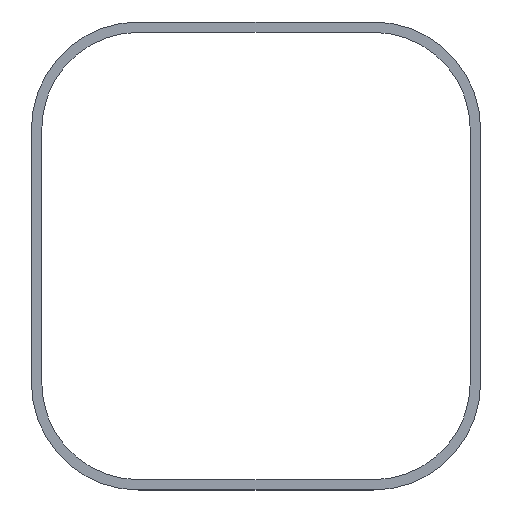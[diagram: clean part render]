
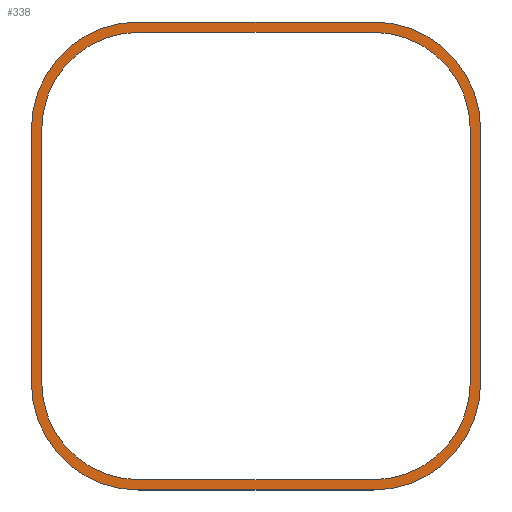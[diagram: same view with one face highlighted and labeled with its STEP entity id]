
A CAD part, top view. The second image highlights one B-rep face of the part: STEP entity #338.
In plain terms, the highlighted planar face has unit normal (0, 0, 1).
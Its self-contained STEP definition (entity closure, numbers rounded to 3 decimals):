
#15=FACE_BOUND('',#55,.T.);
#21=PLANE('',#380);
#36=FACE_OUTER_BOUND('',#54,.T.);
#54=EDGE_LOOP('',(#261,#262,#263,#264,#265,#266,#267,#268));
#55=EDGE_LOOP('',(#269,#270,#271,#272,#273,#274,#275,#276));
#67=LINE('',#509,#99);
#71=LINE('',#521,#103);
#77=LINE('',#541,#109);
#79=LINE('',#544,#111);
#83=LINE('',#557,#115);
#84=LINE('',#561,#116);
#85=LINE('',#565,#117);
#86=LINE('',#568,#118);
#99=VECTOR('',#407,10.);
#103=VECTOR('',#419,10.);
#109=VECTOR('',#439,10.);
#111=VECTOR('',#443,10.);
#115=VECTOR('',#455,10.);
#116=VECTOR('',#458,10.);
#117=VECTOR('',#461,10.);
#118=VECTOR('',#464,10.);
#129=CIRCLE('',#362,10.3);
#131=CIRCLE('',#366,10.3);
#133=CIRCLE('',#370,10.3);
#135=CIRCLE('',#373,10.3);
#138=CIRCLE('',#379,11.4);
#139=CIRCLE('',#381,11.4);
#140=CIRCLE('',#382,11.4);
#141=CIRCLE('',#383,11.4);
#145=VERTEX_POINT('',#499);
#146=VERTEX_POINT('',#500);
#149=VERTEX_POINT('',#508);
#151=VERTEX_POINT('',#514);
#153=VERTEX_POINT('',#520);
#155=VERTEX_POINT('',#526);
#156=VERTEX_POINT('',#527);
#159=VERTEX_POINT('',#535);
#161=VERTEX_POINT('',#547);
#164=VERTEX_POINT('',#552);
#165=VERTEX_POINT('',#556);
#166=VERTEX_POINT('',#558);
#167=VERTEX_POINT('',#560);
#168=VERTEX_POINT('',#562);
#169=VERTEX_POINT('',#564);
#170=VERTEX_POINT('',#566);
#177=EDGE_CURVE('',#145,#146,#129,.T.);
#181=EDGE_CURVE('',#146,#149,#67,.T.);
#184=EDGE_CURVE('',#149,#151,#131,.T.);
#187=EDGE_CURVE('',#151,#153,#71,.T.);
#190=EDGE_CURVE('',#155,#156,#133,.T.);
#194=EDGE_CURVE('',#153,#159,#135,.T.);
#197=EDGE_CURVE('',#159,#155,#77,.T.);
#199=EDGE_CURVE('',#156,#145,#79,.T.);
#204=EDGE_CURVE('',#161,#164,#138,.T.);
#205=EDGE_CURVE('',#164,#165,#83,.T.);
#206=EDGE_CURVE('',#165,#166,#139,.T.);
#207=EDGE_CURVE('',#166,#167,#84,.T.);
#208=EDGE_CURVE('',#167,#168,#140,.T.);
#209=EDGE_CURVE('',#168,#169,#85,.T.);
#210=EDGE_CURVE('',#169,#170,#141,.T.);
#211=EDGE_CURVE('',#170,#161,#86,.T.);
#261=ORIENTED_EDGE('',*,*,#205,.T.);
#262=ORIENTED_EDGE('',*,*,#206,.T.);
#263=ORIENTED_EDGE('',*,*,#207,.T.);
#264=ORIENTED_EDGE('',*,*,#208,.T.);
#265=ORIENTED_EDGE('',*,*,#209,.T.);
#266=ORIENTED_EDGE('',*,*,#210,.T.);
#267=ORIENTED_EDGE('',*,*,#211,.T.);
#268=ORIENTED_EDGE('',*,*,#204,.T.);
#269=ORIENTED_EDGE('',*,*,#194,.T.);
#270=ORIENTED_EDGE('',*,*,#197,.T.);
#271=ORIENTED_EDGE('',*,*,#190,.T.);
#272=ORIENTED_EDGE('',*,*,#199,.T.);
#273=ORIENTED_EDGE('',*,*,#177,.T.);
#274=ORIENTED_EDGE('',*,*,#181,.T.);
#275=ORIENTED_EDGE('',*,*,#184,.T.);
#276=ORIENTED_EDGE('',*,*,#187,.T.);
#338=ADVANCED_FACE('',(#36,#15),#21,.T.);
#362=AXIS2_PLACEMENT_3D('',#501,#399,#400);
#366=AXIS2_PLACEMENT_3D('',#515,#412,#413);
#370=AXIS2_PLACEMENT_3D('',#528,#424,#425);
#373=AXIS2_PLACEMENT_3D('',#536,#432,#433);
#379=AXIS2_PLACEMENT_3D('',#554,#451,#452);
#380=AXIS2_PLACEMENT_3D('',#555,#453,#454);
#381=AXIS2_PLACEMENT_3D('',#559,#456,#457);
#382=AXIS2_PLACEMENT_3D('',#563,#459,#460);
#383=AXIS2_PLACEMENT_3D('',#567,#462,#463);
#399=DIRECTION('center_axis',(0.,0.,-1.));
#400=DIRECTION('ref_axis',(1.,0.,0.));
#407=DIRECTION('',(0.,-1.,0.));
#412=DIRECTION('center_axis',(0.,0.,-1.));
#413=DIRECTION('ref_axis',(1.,0.,0.));
#419=DIRECTION('',(-1.,0.,0.));
#424=DIRECTION('center_axis',(0.,0.,-1.));
#425=DIRECTION('ref_axis',(1.,0.,0.));
#432=DIRECTION('center_axis',(0.,0.,-1.));
#433=DIRECTION('ref_axis',(1.,0.,0.));
#439=DIRECTION('',(0.,1.,0.));
#443=DIRECTION('',(1.,0.,0.));
#451=DIRECTION('center_axis',(0.,0.,1.));
#452=DIRECTION('ref_axis',(1.,0.,0.));
#453=DIRECTION('center_axis',(0.,0.,1.));
#454=DIRECTION('ref_axis',(1.,0.,0.));
#455=DIRECTION('',(-1.,0.,0.));
#456=DIRECTION('center_axis',(0.,0.,1.));
#457=DIRECTION('ref_axis',(1.,0.,0.));
#458=DIRECTION('',(0.,-1.,0.));
#459=DIRECTION('center_axis',(0.,0.,1.));
#460=DIRECTION('ref_axis',(1.,0.,0.));
#461=DIRECTION('',(1.,0.,0.));
#462=DIRECTION('center_axis',(0.,0.,1.));
#463=DIRECTION('ref_axis',(1.,0.,0.));
#464=DIRECTION('',(0.,1.,0.));
#499=CARTESIAN_POINT('',(12.5,61.3,-0.1));
#500=CARTESIAN_POINT('',(22.8,51.,-0.1));
#501=CARTESIAN_POINT('Origin',(12.5,51.,-0.1));
#508=CARTESIAN_POINT('',(22.8,24.,-0.1));
#509=CARTESIAN_POINT('',(22.8,37.5,-0.1));
#514=CARTESIAN_POINT('',(12.5,13.7,-0.1));
#515=CARTESIAN_POINT('Origin',(12.5,24.,-0.1));
#520=CARTESIAN_POINT('',(-12.5,13.7,-0.1));
#521=CARTESIAN_POINT('',(0.,13.7,-0.1));
#526=CARTESIAN_POINT('',(-22.8,51.,-0.1));
#527=CARTESIAN_POINT('',(-12.5,61.3,-0.1));
#528=CARTESIAN_POINT('Origin',(-12.5,51.,-0.1));
#535=CARTESIAN_POINT('',(-22.8,24.,-0.1));
#536=CARTESIAN_POINT('Origin',(-12.5,24.,-0.1));
#541=CARTESIAN_POINT('',(-22.8,37.5,-0.1));
#544=CARTESIAN_POINT('',(0.,61.3,-0.1));
#547=CARTESIAN_POINT('',(23.9,51.,-0.1));
#552=CARTESIAN_POINT('',(12.5,62.4,-0.1));
#554=CARTESIAN_POINT('Origin',(12.5,51.,-0.1));
#555=CARTESIAN_POINT('Origin',(0.,37.5,-0.1));
#556=CARTESIAN_POINT('',(-12.5,62.4,-0.1));
#557=CARTESIAN_POINT('',(0.,62.4,-0.1));
#558=CARTESIAN_POINT('',(-23.9,51.,-0.1));
#559=CARTESIAN_POINT('Origin',(-12.5,51.,-0.1));
#560=CARTESIAN_POINT('',(-23.9,24.,-0.1));
#561=CARTESIAN_POINT('',(-23.9,37.5,-0.1));
#562=CARTESIAN_POINT('',(-12.5,12.6,-0.1));
#563=CARTESIAN_POINT('Origin',(-12.5,24.,-0.1));
#564=CARTESIAN_POINT('',(12.5,12.6,-0.1));
#565=CARTESIAN_POINT('',(0.,12.6,-0.1));
#566=CARTESIAN_POINT('',(23.9,24.,-0.1));
#567=CARTESIAN_POINT('Origin',(12.5,24.,-0.1));
#568=CARTESIAN_POINT('',(23.9,37.5,-0.1));
